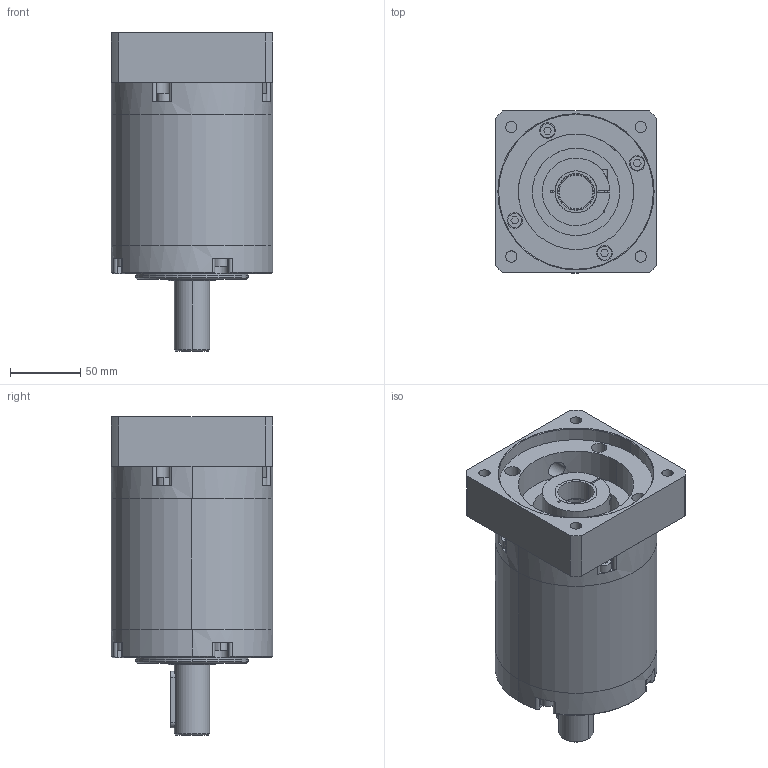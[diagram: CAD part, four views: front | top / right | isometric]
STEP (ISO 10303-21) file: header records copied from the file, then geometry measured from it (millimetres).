
FILE_DESCRIPTION((''),'2;1');
FILE_NAME('PV115FB-SINGLE-24-AD_ASM','2009-05-28T',('ata7311'),(''),'PRO/ENGINEER BY PARAMETRIC TECHNOLOGY CORPORATION, 2006300','PRO/ENGINEER BY PARAMETRIC TECHNOLOGY CORPORATION, 2006300','');
FILE_SCHEMA(('CONFIG_CONTROL_DESIGN'));
Products named in the file (13): PV115_HM_SINGLE; PV115_SHFT_FB; PV115-COVER-TN; PV115_REAR_COVER; MU115_HR_LONG; M6X30; M6X20; PV115_SUN_CLMP; PV115_CLAMP; M6X25; HD202-0032; 5100-137; PV115FB-SINGLE-24-AD_ASM
Assembly tree (22 placements, depth 2):
  PV115FB-SINGLE-24-AD_ASM
    PV115_HM_SINGLE
    PV115_SHFT_FB
    PV115-COVER-TN
    PV115_REAR_COVER
    MU115_HR_LONG
    M6X30  x8
    M6X20  x4
    PV115_SUN_CLMP
    PV115_CLAMP
    M6X25
    HD202-0032
    5100-137
Bounding box: 115 x 115 x 226 mm (x, y, z)
Volume: 1016430 mm3; surface area: 232341.9 mm2
Topology: 22 solids, 22 shells, 451 faces, 1033 edges, 682 vertices
Faces by surface type: plane 225, cylinder 202, cone 20, torus 4
Entity records: 9740 total; most frequent: CARTESIAN_POINT 1844, DIRECTION 1755, ORIENTED_EDGE 1466, EDGE_CURVE 733, AXIS2_PLACEMENT_3D 707, VERTEX_POINT 482, EDGE_LOOP 385, CIRCLE 361
